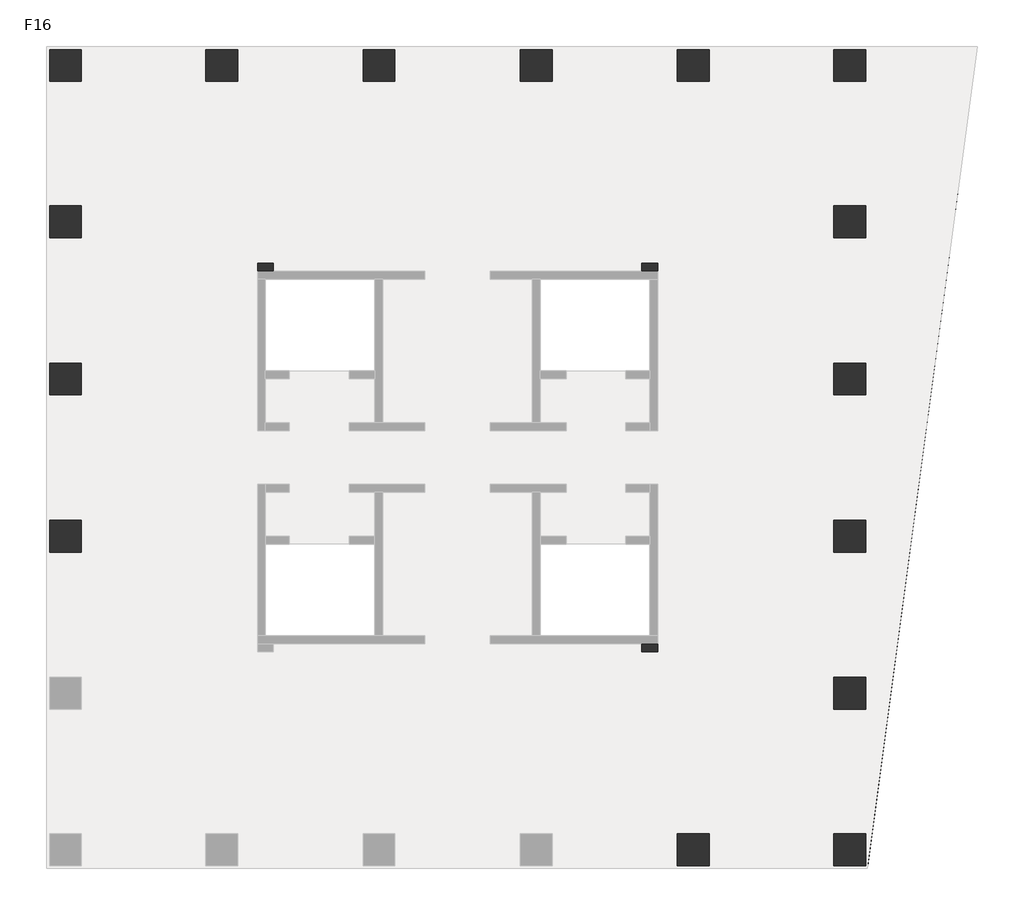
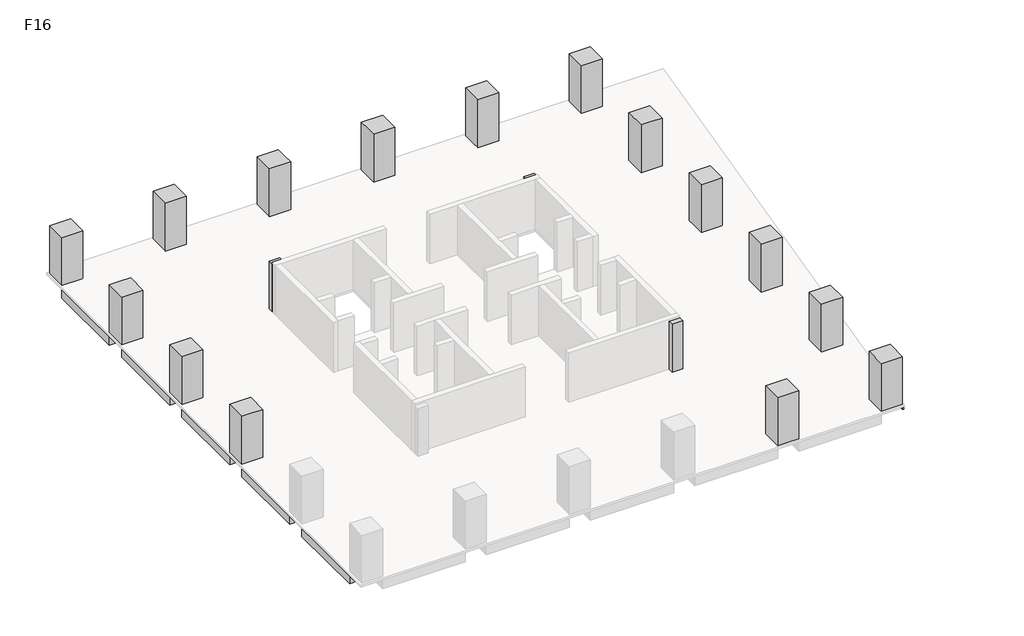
# One storey, part 2 of 2: 21 beams, 18 columns.
"""IFC4 building model written with IfcOpenShell, lengths in millimetres."""

from ifc_helpers import new_model, si_unit, frame, origin, place, context, project, spatial, polyline, outline, extrude, faceted_brep, element, save

model = new_model("IFC4")

# Units and contexts
model_context = context("Model", 3, world=origin())
ifc_project = project(units=[si_unit("LENGTHUNIT", "METRE", prefix="MILLI")], contexts=[model_context])

# Site, building, storey
site = spatial("IfcSite", under=ifc_project)
building = spatial("IfcBuilding", under=site)
storey = spatial("IfcBuildingStorey", under=building, Name="F16", Elevation=64000.0)

# Beams
placement = place(None, origin())
element("IfcBeam", 1, ObjectType="混凝土 - 矩形梁 : KL(5)-800x1000", at=placement, inside=storey, context=model_context, shape_type="SweptSolid", body=[
    extrude(outline(polyline([(25327.3257831, 27051.0498658), (25327.3257831, 26251.0498658), (19077.3257831, 26251.0498658), (19077.3257831, 27051.0498658), (25327.3257831, 27051.0498658)])), frame((0.0, 0.0, 63000.0), z_axis=(0.0, 0.0, 1.0), x_axis=(1.0, 0.0, 0.0)), (0.0, 0.0, 1.0), 840.0),
    extrude(outline(polyline([(-12472.6742169, 26251.0498658), (-12472.6742169, 27051.0498658), (-6222.6742169, 27051.0498658), (-6222.6742169, 26251.0498658), (-12472.6742169, 26251.0498658)])), frame((0.0, 0.0, 63000.0), z_axis=(0.0, 0.0, 1.0), x_axis=(1.0, 0.0, 0.0)), (0.0, 0.0, 1.0), 840.0),
    extrude(outline(polyline([(-4622.6742169, 26251.0498658), (-4622.6742169, 27051.0498658), (1677.3257831, 27051.0498658), (1677.3257831, 26251.0498658), (-4622.6742169, 26251.0498658)])), frame((0.0, 0.0, 63000.0), z_axis=(0.0, 0.0, 1.0), x_axis=(1.0, 0.0, 0.0)), (0.0, 0.0, 1.0), 840.0),
    extrude(outline(polyline([(3277.3257831, 26251.0498658), (3277.3257831, 27051.0498658), (9577.3257831, 27051.0498658), (9577.3257831, 26251.0498658), (3277.3257831, 26251.0498658)])), frame((0.0, 0.0, 63000.0), z_axis=(0.0, 0.0, 1.0), x_axis=(1.0, 0.0, 0.0)), (0.0, 0.0, 1.0), 840.0),
    extrude(outline(polyline([(11177.3257831, 26251.0498658), (11177.3257831, 27051.0498658), (17477.3257831, 27051.0498658), (17477.3257831, 26251.0498658), (11177.3257831, 26251.0498658)])), frame((0.0, 0.0, 63000.0), z_axis=(0.0, 0.0, 1.0), x_axis=(1.0, 0.0, 0.0)), (0.0, 0.0, 1.0), 840.0),
])
element("IfcBeam", 2, ObjectType="混凝土 - 矩形梁 : KL(5)-800x1000", at=placement, inside=storey, context=model_context, shape_type="Brep", body=[
    faceted_brep([(26927.3257831, 26251.0498658, 63000.0), (32422.0087099, 26251.0498658, 63000.0), (32422.0087099, 26251.0498658, 63840.0), (32018.4257091, 26251.0498658, 63840.0), (26927.3257831, 26251.0498658, 63840.0), (32422.0087099, 27051.0498658, 63000.0), (26927.3257831, 27051.0498658, 63000.0), (26927.3257831, 27051.0498658, 63840.0), (32422.0087099, 27051.0498658, 63840.0)], [[[0, 1, 2, 3, 4]], [[5, 1, 0, 6]], [[5, 6, 7, 8]], [[1, 5, 8, 2]], [[6, 0, 4, 7]], [[4, 3, 2, 8, 7]]]),
])
element("IfcBeam", 3, ObjectType="混凝土 - 矩形梁 : KL(5)-800x1000", at=placement, inside=storey, context=model_context, shape_type="Brep", body=[
    faceted_brep([(26127.3257831, -6098.9501342, 63000.0), (26127.3257831, -12348.9501342, 63000.0), (26127.3257831, -12348.9501342, 63840.0), (26127.3257831, -6098.9501342, 63840.0), (26927.3257831, -12348.9501342, 63000.0), (26927.3257831, -6098.9501342, 63000.0), (26927.3257831, -6098.9501342, 63840.0), (26927.3257831, -11700.7859463, 63840.0), (26927.3257831, -12348.9501342, 63840.0)], [[[0, 1, 2, 3]], [[4, 1, 0, 5]], [[4, 5, 6, 7, 8]], [[1, 4, 8, 2]], [[5, 0, 3, 6]], [[3, 2, 8, 7, 6]]]),
    faceted_brep([(26927.3257831, 25451.0498658, 63000.0), (26127.3257831, 25451.0498658, 63000.0), (26127.3257831, 25451.0498658, 63840.0), (26927.3257831, 25451.0498658, 63840.0), (26127.3257831, 19201.0498658, 63000.0), (26927.3257831, 19201.0498658, 63000.0), (26927.3257831, 19201.0498658, 63840.0), (26127.3257831, 19201.0498658, 63840.0)], [[[0, 1, 2, 3]], [[4, 5, 6, 7]], [[1, 4, 7, 2]], [[1, 0, 5, 4]], [[5, 0, 3, 6]], [[3, 2, 7, 6]]]),
    faceted_brep([(26927.3257831, 17601.0498658, 63000.0), (26127.3257831, 17601.0498658, 63000.0), (26127.3257831, 17601.0498658, 63840.0), (26927.3257831, 17601.0498658, 63840.0), (26127.3257831, 11301.0498658, 63000.0), (26927.3257831, 11301.0498658, 63000.0), (26927.3257831, 11301.0498658, 63840.0), (26127.3257831, 11301.0498658, 63840.0)], [[[0, 1, 2, 3]], [[4, 5, 6, 7]], [[1, 4, 7, 2]], [[1, 0, 5, 4]], [[5, 0, 3, 6]], [[3, 2, 7, 6]]]),
    faceted_brep([(26927.3257831, 9701.0498658, 63000.0), (26127.3257831, 9701.0498658, 63000.0), (26127.3257831, 9701.0498658, 63840.0), (26927.3257831, 9701.0498658, 63840.0), (26127.3257831, 3401.0498658, 63000.0), (26927.3257831, 3401.0498658, 63000.0), (26927.3257831, 3401.0498658, 63840.0), (26127.3257831, 3401.0498658, 63840.0)], [[[0, 1, 2, 3]], [[4, 5, 6, 7]], [[1, 4, 7, 2]], [[1, 0, 5, 4]], [[5, 0, 3, 6]], [[3, 2, 7, 6]]]),
    faceted_brep([(26927.3257831, 1801.0498658, 63000.0), (26127.3257831, 1801.0498658, 63000.0), (26127.3257831, 1801.0498658, 63840.0), (26927.3257831, 1801.0498658, 63840.0), (26127.3257831, -4498.9501342, 63000.0), (26927.3257831, -4498.9501342, 63000.0), (26927.3257831, -4498.9501342, 63840.0), (26127.3257831, -4498.9501342, 63840.0)], [[[0, 1, 2, 3]], [[4, 5, 6, 7]], [[1, 4, 7, 2]], [[1, 0, 5, 4]], [[5, 0, 3, 6]], [[3, 2, 7, 6]]]),
])
element("IfcBeam", 4, ObjectType="混凝土 - 矩形梁 : KL(5)-800x1000", at=placement, inside=storey, context=model_context, shape_type="SweptSolid", body=[
    extrude(outline(polyline([(-14072.6742169, 25451.0498658), (-13272.6742169, 25451.0498658), (-13272.6742169, 19201.0498658), (-14072.6742169, 19201.0498658), (-14072.6742169, 25451.0498658)])), frame((0.0, 0.0, 63000.0), z_axis=(0.0, 0.0, 1.0), x_axis=(1.0, 0.0, 0.0)), (0.0, 0.0, 1.0), 840.0),
    extrude(outline(polyline([(-13272.6742169, -12348.9501342), (-14072.6742169, -12348.9501342), (-14072.6742169, -6098.9501342), (-13272.6742169, -6098.9501342), (-13272.6742169, -12348.9501342)])), frame((0.0, 0.0, 63000.0), z_axis=(0.0, 0.0, 1.0), x_axis=(1.0, 0.0, 0.0)), (0.0, 0.0, 1.0), 840.0),
    extrude(outline(polyline([(-14072.6742169, 17601.0498658), (-13272.6742169, 17601.0498658), (-13272.6742169, 11301.0498658), (-14072.6742169, 11301.0498658), (-14072.6742169, 17601.0498658)])), frame((0.0, 0.0, 63000.0), z_axis=(0.0, 0.0, 1.0), x_axis=(1.0, 0.0, 0.0)), (0.0, 0.0, 1.0), 840.0),
    extrude(outline(polyline([(-14072.6742169, 9701.0498658), (-13272.6742169, 9701.0498658), (-13272.6742169, 3401.0498658), (-14072.6742169, 3401.0498658), (-14072.6742169, 9701.0498658)])), frame((0.0, 0.0, 63000.0), z_axis=(0.0, 0.0, 1.0), x_axis=(1.0, 0.0, 0.0)), (0.0, 0.0, 1.0), 840.0),
    extrude(outline(polyline([(-14072.6742169, 1801.0498658), (-13272.6742169, 1801.0498658), (-13272.6742169, -4498.9501342), (-14072.6742169, -4498.9501342), (-14072.6742169, 1801.0498658)])), frame((0.0, 0.0, 63000.0), z_axis=(0.0, 0.0, 1.0), x_axis=(1.0, 0.0, 0.0)), (0.0, 0.0, 1.0), 840.0),
])
element("IfcBeam", 5, ObjectType="混凝土 - 矩形梁 : L1-800x500", at=placement, inside=storey, context=model_context, shape_type="SweptSolid", body=[
    extrude(outline(polyline([(-12472.6742169, 2201.0498658), (-12472.6742169, 3001.0498658), (-3622.6742169, 3001.0498658), (-3622.6742169, 2201.0498658), (-12472.6742169, 2201.0498658)])), frame((0.0, 0.0, 63500.0), z_axis=(0.0, 0.0, 1.0), x_axis=(1.0, 0.0, 0.0)), (0.0, 0.0, 1.0), 340.0),
])
element("IfcBeam", 6, ObjectType="混凝土 - 矩形梁 : L1-800x500", at=placement, inside=storey, context=model_context, shape_type="SweptSolid", body=[
    extrude(outline(polyline([(-12472.6742169, 10101.0498658), (-12472.6742169, 10901.0498658), (-3622.6742169, 10901.0498658), (-3622.6742169, 10101.0498658), (-12472.6742169, 10101.0498658)])), frame((0.0, 0.0, 63500.0), z_axis=(0.0, 0.0, 1.0), x_axis=(1.0, 0.0, 0.0)), (0.0, 0.0, 1.0), 340.0),
])
element("IfcBeam", 7, ObjectType="混凝土 - 矩形梁 : L1-800x500", at=placement, inside=storey, context=model_context, shape_type="Brep", body=[
    faceted_brep([(-12472.6742169, 17789.85471, 63500.0), (-3622.6742169, 15588.3621727, 63500.0), (-3622.6742169, 15588.3621727, 63840.0), (-12472.6742169, 17789.85471, 63840.0), (-3173.6696907, 16301.0498658, 63500.0), (-3622.6742169, 16301.0498658, 63500.0), (-3622.6742169, 15901.0498658, 63500.0), (-12472.6742169, 18614.2350714, 63500.0), (-3746.9473979, 16443.6562607, 63500.0), (-12472.6742169, 18614.2350714, 63840.0), (-3746.9473979, 16443.6562607, 63840.0), (-3173.6696907, 16301.0498658, 63840.0), (-3622.6742169, 16301.0498658, 63840.0)], [[[0, 1, 2, 3]], [[4, 5, 6, 1, 0, 7, 8]], [[4, 8, 7, 9, 10, 11]], [[6, 5, 12, 2, 1]], [[5, 4, 11, 12]], [[7, 0, 3, 9]], [[3, 2, 12, 11, 10, 9]]]),
])
element("IfcBeam", 8, ObjectType="混凝土 - 矩形梁 : L1-800x500", at=placement, inside=storey, context=model_context, shape_type="SweptSolid", body=[
    extrude(outline(polyline([(-3173.6696907, 16301.0498658), (-3746.9473979, 16443.6562607), (-5661.5624638, 25451.0498658), (-4843.6893517, 25451.0498658), (-2898.7618154, 16301.0498658), (-3173.6696907, 16301.0498658)])), frame((0.0, 0.0, 63500.0), z_axis=(0.0, 0.0, 1.0), x_axis=(1.0, 0.0, 0.0)), (0.0, 0.0, 1.0), 340.0),
])
element("IfcBeam", 9, ObjectType="混凝土 - 矩形梁 : L1-800x500", at=placement, inside=storey, context=model_context, shape_type="SweptSolid", body=[
    extrude(outline(polyline([(2077.3257831, 25451.0498658), (2877.3257831, 25451.0498658), (2877.3257831, 15901.0498658), (2077.3257831, 15901.0498658), (2077.3257831, 25451.0498658)])), frame((0.0, 0.0, 63500.0), z_axis=(0.0, 0.0, 1.0), x_axis=(1.0, 0.0, 0.0)), (0.0, 0.0, 1.0), 340.0),
])
element("IfcBeam", 10, ObjectType="混凝土 - 矩形梁 : L1-800x500", at=placement, inside=storey, context=model_context, shape_type="SweptSolid", body=[
    extrude(outline(polyline([(9977.3257831, 25451.0498658), (10777.3257831, 25451.0498658), (10777.3257831, 15901.0498658), (9977.3257831, 15901.0498658), (9977.3257831, 25451.0498658)])), frame((0.0, 0.0, 63500.0), z_axis=(0.0, 0.0, 1.0), x_axis=(1.0, 0.0, 0.0)), (0.0, 0.0, 1.0), 340.0),
])
element("IfcBeam", 11, ObjectType="混凝土 - 矩形梁 : L1-800x500", at=placement, inside=storey, context=model_context, shape_type="Brep", body=[
    faceted_brep([(25327.3257831, -4687.7549784, 63500.0), (16477.3257831, -2486.2624411, 63500.0), (16477.3257831, -2486.2624411, 63840.0), (25327.3257831, -4687.7549784, 63840.0), (16028.3212569, -3198.9501342, 63500.0), (16477.3257831, -3198.9501342, 63500.0), (16477.3257831, -2798.9501342, 63500.0), (25327.3257831, -5512.1353397, 63500.0), (16601.5989641, -3341.556529, 63500.0), (25327.3257831, -5512.1353397, 63840.0), (16601.5989641, -3341.556529, 63840.0), (16028.3212569, -3198.9501342, 63840.0), (16477.3257831, -3198.9501342, 63840.0)], [[[0, 1, 2, 3]], [[4, 5, 6, 1, 0, 7, 8]], [[4, 8, 7, 9, 10, 11]], [[6, 5, 12, 2, 1]], [[5, 4, 11, 12]], [[7, 0, 3, 9]], [[3, 2, 12, 11, 10, 9]]]),
])
element("IfcBeam", 12, ObjectType="混凝土 - 矩形梁 : L1-800x500", at=placement, inside=storey, context=model_context, shape_type="SweptSolid", body=[
    extrude(outline(polyline([(16028.3212569, -3198.9501342), (16601.5989641, -3341.556529), (18516.21403, -12348.9501342), (17698.3409179, -12348.9501342), (15753.4133817, -3198.9501342), (16028.3212569, -3198.9501342)])), frame((0.0, 0.0, 63500.0), z_axis=(0.0, 0.0, 1.0), x_axis=(1.0, 0.0, 0.0)), (0.0, 0.0, 1.0), 340.0),
])
element("IfcBeam", 13, ObjectType="混凝土 - 矩形梁 : L1-800x500", at=placement, inside=storey, context=model_context, shape_type="SweptSolid", body=[
    extrude(outline(polyline([(25327.3257831, 3001.0498658), (25327.3257831, 2201.0498658), (16477.3257831, 2201.0498658), (16477.3257831, 3001.0498658), (25327.3257831, 3001.0498658)])), frame((0.0, 0.0, 63500.0), z_axis=(0.0, 0.0, 1.0), x_axis=(1.0, 0.0, 0.0)), (0.0, 0.0, 1.0), 340.0),
])
element("IfcBeam", 14, ObjectType="混凝土 - 矩形梁 : L1-800x500", at=placement, inside=storey, context=model_context, shape_type="SweptSolid", body=[
    extrude(outline(polyline([(25327.3257831, 10901.0498658), (25327.3257831, 10101.0498658), (16477.3257831, 10101.0498658), (16477.3257831, 10901.0498658), (25327.3257831, 10901.0498658)])), frame((0.0, 0.0, 63500.0), z_axis=(0.0, 0.0, 1.0), x_axis=(1.0, 0.0, 0.0)), (0.0, 0.0, 1.0), 340.0),
])
element("IfcBeam", 15, ObjectType="混凝土 - 矩形梁 : L1-800x500", at=placement, inside=storey, context=model_context, shape_type="Brep", body=[
    faceted_brep([(25327.3257831, 18610.6867312, 63500.0), (16590.8993897, 16393.3196262, 63500.0), (16227.3565337, 16301.0498658, 63500.0), (16227.3565337, 16301.0498658, 63840.0), (16590.8993897, 16393.3196262, 63840.0), (25327.3257831, 18610.6867312, 63840.0), (16477.3257831, 16301.0498658, 63500.0), (25327.3257831, 17785.3216299, 63500.0), (16477.3257831, 15539.1287365, 63500.0), (16477.3257831, 15901.0498658, 63500.0), (25327.3257831, 17785.3216299, 63840.0), (16477.3257831, 15539.1287365, 63840.0), (16477.3257831, 16301.0498658, 63840.0)], [[[0, 1, 2, 3, 4, 5]], [[6, 2, 1, 0, 7, 8, 9]], [[8, 7, 10, 11]], [[9, 8, 11, 12, 6]], [[2, 6, 12, 3]], [[7, 0, 5, 10]], [[5, 4, 3, 12, 11, 10]]]),
])
element("IfcBeam", 16, ObjectType="混凝土 - 矩形梁 : L1-800x500", at=placement, inside=storey, context=model_context, shape_type="SweptSolid", body=[
    extrude(outline(polyline([(16590.8993897, 16393.3196262), (16227.3565337, 16301.0498658), (15753.4133817, 16301.0498658), (17698.3409179, 25451.0498658), (18516.21403, 25451.0498658), (16590.8993897, 16393.3196262)])), frame((0.0, 0.0, 63500.0), z_axis=(0.0, 0.0, 1.0), x_axis=(1.0, 0.0, 0.0)), (0.0, 0.0, 1.0), 340.0),
])
element("IfcBeam", 17, ObjectType="混凝土 - 矩形梁 : L2-400x400", at=placement, inside=storey, context=model_context, shape_type="Brep", body=[
    faceted_brep([(32422.0087099, 26251.0498658, 63600.0), (27029.3257831, -13948.9501342, 63600.0), (26927.3257831, -13935.2672073, 63600.0), (26927.3257831, -11700.7859463, 63600.0), (27759.2793677, -5498.9501342, 63600.0), (27812.9379042, -5098.9501342, 63600.0), (28819.0354652, 2401.0498658, 63600.0), (28872.6940018, 2801.0498658, 63600.0), (29878.7915628, 10301.0498658, 63600.0), (29932.4500994, 10701.0498658, 63600.0), (30938.5476603, 18201.0498658, 63600.0), (30992.2061969, 18601.0498658, 63600.0), (32018.4257091, 26251.0498658, 63600.0), (32422.0087099, 26251.0498658, 63840.0), (27029.3257831, -13948.9501342, 63840.0), (32018.4257091, 26251.0498658, 63840.0), (26927.3257831, -13935.2672073, 63840.0), (26927.3257831, -12348.9501342, 63840.0), (26927.3257831, -11700.7859463, 63840.0), (27759.2793677, -5498.9501342, 63840.0), (27812.9379042, -5098.9501342, 63840.0), (28819.0354652, 2401.0498658, 63840.0), (28872.6940018, 2801.0498658, 63840.0), (29878.7915628, 10301.0498658, 63840.0), (29932.4500994, 10701.0498658, 63840.0), (30938.5476603, 18201.0498658, 63840.0), (30992.2061969, 18601.0498658, 63840.0)], [[[0, 1, 2, 3, 4, 5, 6, 7, 8, 9, 10, 11, 12]], [[1, 0, 13, 14]], [[0, 12, 15, 13]], [[3, 2, 16, 17, 18]], [[12, 11, 10, 9, 8, 7, 6, 5, 4, 3, 18, 19, 20, 21, 22, 23, 24, 25, 26, 15]], [[2, 1, 14, 16]], [[14, 13, 15, 26, 25, 24, 23, 22, 21, 20, 19, 18, 17, 16]]]),
])
element("IfcBeam", 18, ObjectType="混凝土 - 矩形梁 : L2-400x400", at=placement, inside=storey, context=model_context, shape_type="SweptSolid", body=[
    extrude(outline(polyline([(30938.5476603, 18201.0498658), (26927.3257831, 18201.0498658), (26927.3257831, 18601.0498658), (30992.2061969, 18601.0498658), (30938.5476603, 18201.0498658)])), frame((0.0, 0.0, 63600.0), z_axis=(0.0, 0.0, 1.0), x_axis=(1.0, 0.0, 0.0)), (0.0, 0.0, 1.0), 240.0),
])
element("IfcBeam", 19, ObjectType="混凝土 - 矩形梁 : L2-400x400", at=placement, inside=storey, context=model_context, shape_type="SweptSolid", body=[
    extrude(outline(polyline([(29878.7915628, 10301.0498658), (26927.3257831, 10301.0498658), (26927.3257831, 10701.0498658), (29932.4500994, 10701.0498658), (29878.7915628, 10301.0498658)])), frame((0.0, 0.0, 63600.0), z_axis=(0.0, 0.0, 1.0), x_axis=(1.0, 0.0, 0.0)), (0.0, 0.0, 1.0), 240.0),
])
element("IfcBeam", 20, ObjectType="混凝土 - 矩形梁 : L2-400x400", at=placement, inside=storey, context=model_context, shape_type="SweptSolid", body=[
    extrude(outline(polyline([(28819.0354652, 2401.0498658), (26927.3257831, 2401.0498658), (26927.3257831, 2801.0498658), (28872.6940018, 2801.0498658), (28819.0354652, 2401.0498658)])), frame((0.0, 0.0, 63600.0), z_axis=(0.0, 0.0, 1.0), x_axis=(1.0, 0.0, 0.0)), (0.0, 0.0, 1.0), 240.0),
])
element("IfcBeam", 21, ObjectType="混凝土 - 矩形梁 : L2-400x400", at=placement, inside=storey, context=model_context, shape_type="SweptSolid", body=[
    extrude(outline(polyline([(27759.2793677, -5498.9501342), (26927.3257831, -5498.9501342), (26927.3257831, -5098.9501342), (27812.9379042, -5098.9501342), (27759.2793677, -5498.9501342)])), frame((0.0, 0.0, 63600.0), z_axis=(0.0, 0.0, 1.0), x_axis=(1.0, 0.0, 0.0)), (0.0, 0.0, 1.0), 240.0),
])

# Columns
element("IfcColumn", 22, ObjectType="混凝土 - 矩形 - 柱 : Z1-1600x1600", at=placement, inside=storey, context=model_context, shape_type="SweptSolid", body=[
    extrude(outline(polyline([(-12472.6742169, 27051.0498658), (-12472.6742169, 25451.0498658), (-14072.6742169, 25451.0498658), (-14072.6742169, 27051.0498658), (-12472.6742169, 27051.0498658)])), frame((0.0, 0.0, 64000.0), z_axis=(0.0, 0.0, 1.0), x_axis=(1.0, 0.0, 0.0)), (0.0, 0.0, 1.0), 3840.0),
])
element("IfcColumn", 23, ObjectType="混凝土 - 矩形 - 柱 : Z1-1600x1600", at=placement, inside=storey, context=model_context, shape_type="Brep", body=[
    faceted_brep([(-4622.6742169, 27051.0498658, 64000.0), (-4622.6742169, 25451.0498658, 64000.0), (-6222.6742169, 25451.0498658, 64000.0), (-6222.6742169, 27051.0498658, 64000.0), (-4622.6742169, 27051.0498658, 67000.0), (-4622.6742169, 27051.0498658, 67840.0), (-4622.6742169, 26251.0498658, 67840.0), (-4622.6742169, 25451.0498658, 67840.0), (-6222.6742169, 25451.0498658, 67840.0), (-6222.6742169, 26251.0498658, 67840.0), (-6222.6742169, 27051.0498658, 67840.0), (-6222.6742169, 27051.0498658, 67000.0)], [[[0, 1, 2, 3]], [[1, 0, 4, 5, 6, 7]], [[2, 1, 7, 8]], [[3, 2, 8, 9, 10, 11]], [[0, 3, 11, 10, 5, 4]], [[7, 6, 5, 10, 9, 8]]]),
])
element("IfcColumn", 24, ObjectType="混凝土 - 矩形 - 柱 : Z1-1600x1600", at=placement, inside=storey, context=model_context, shape_type="Brep", body=[
    faceted_brep([(-12472.6742169, 19201.0498658, 64000.0), (-12472.6742169, 17601.0498658, 64000.0), (-14072.6742169, 17601.0498658, 64000.0), (-14072.6742169, 19201.0498658, 64000.0), (-12472.6742169, 19201.0498658, 67840.0), (-12472.6742169, 17601.0498658, 67840.0), (-13272.6742169, 17601.0498658, 67840.0), (-14072.6742169, 17601.0498658, 67840.0), (-14072.6742169, 17601.0498658, 67000.0), (-14072.6742169, 19201.0498658, 67840.0), (-14072.6742169, 19201.0498658, 67000.0), (-13272.6742169, 19201.0498658, 67840.0)], [[[0, 1, 2, 3]], [[1, 0, 4, 5]], [[2, 1, 5, 6, 7, 8]], [[3, 2, 8, 7, 9, 10]], [[0, 3, 10, 9, 11, 4]], [[5, 4, 11, 9, 7, 6]]]),
])
element("IfcColumn", 25, ObjectType="混凝土 - 矩形 - 柱 : Z1-1600x1600", at=placement, inside=storey, context=model_context, shape_type="Brep", body=[
    faceted_brep([(-12472.6742169, 11301.0498658, 64000.0), (-12472.6742169, 9701.0498658, 64000.0), (-14072.6742169, 9701.0498658, 64000.0), (-14072.6742169, 11301.0498658, 64000.0), (-12472.6742169, 11301.0498658, 67840.0), (-12472.6742169, 9701.0498658, 67840.0), (-13272.6742169, 9701.0498658, 67840.0), (-14072.6742169, 9701.0498658, 67840.0), (-14072.6742169, 9701.0498658, 67000.0), (-14072.6742169, 11301.0498658, 67840.0), (-14072.6742169, 11301.0498658, 67000.0), (-13272.6742169, 11301.0498658, 67840.0)], [[[0, 1, 2, 3]], [[1, 0, 4, 5]], [[2, 1, 5, 6, 7, 8]], [[3, 2, 8, 7, 9, 10]], [[0, 3, 10, 9, 11, 4]], [[5, 4, 11, 9, 7, 6]]]),
])
element("IfcColumn", 26, ObjectType="混凝土 - 矩形 - 柱 : Z1-1600x1600", at=placement, inside=storey, context=model_context, shape_type="Brep", body=[
    faceted_brep([(-12472.6742169, 3401.0498658, 64000.0), (-12472.6742169, 1801.0498658, 64000.0), (-14072.6742169, 1801.0498658, 64000.0), (-14072.6742169, 3401.0498658, 64000.0), (-12472.6742169, 3401.0498658, 67840.0), (-12472.6742169, 1801.0498658, 67840.0), (-13272.6742169, 1801.0498658, 67840.0), (-14072.6742169, 1801.0498658, 67840.0), (-14072.6742169, 1801.0498658, 67000.0), (-14072.6742169, 3401.0498658, 67840.0), (-14072.6742169, 3401.0498658, 67000.0), (-13272.6742169, 3401.0498658, 67840.0)], [[[0, 1, 2, 3]], [[1, 0, 4, 5]], [[2, 1, 5, 6, 7, 8]], [[3, 2, 8, 7, 9, 10]], [[0, 3, 10, 9, 11, 4]], [[5, 4, 11, 9, 7, 6]]]),
])
element("IfcColumn", 27, ObjectType="混凝土 - 矩形 - 柱 : Z1-1600x1600", at=placement, inside=storey, context=model_context, shape_type="SweptSolid", body=[
    extrude(outline(polyline([(25327.3257831, 27051.0498658), (26927.3257831, 27051.0498658), (26927.3257831, 25451.0498658), (25327.3257831, 25451.0498658), (25327.3257831, 27051.0498658)])), frame((0.0, 0.0, 64000.0), z_axis=(0.0, 0.0, 1.0), x_axis=(1.0, 0.0, 0.0)), (0.0, 0.0, 1.0), 3840.0),
])
element("IfcColumn", 28, ObjectType="混凝土 - 矩形 - 柱 : Z1-1600x1600", at=placement, inside=storey, context=model_context, shape_type="Brep", body=[
    faceted_brep([(25327.3257831, 19201.0498658, 64000.0), (26927.3257831, 19201.0498658, 64000.0), (26927.3257831, 17601.0498658, 64000.0), (25327.3257831, 17601.0498658, 64000.0), (25327.3257831, 17601.0498658, 67840.0), (25327.3257831, 19201.0498658, 67840.0), (26927.3257831, 17601.0498658, 67000.0), (26927.3257831, 17601.0498658, 67840.0), (26127.3257831, 17601.0498658, 67840.0), (26927.3257831, 19201.0498658, 67000.0), (26927.3257831, 19201.0498658, 67840.0), (26127.3257831, 19201.0498658, 67840.0)], [[[0, 1, 2, 3]], [[0, 3, 4, 5]], [[3, 2, 6, 7, 8, 4]], [[2, 1, 9, 10, 7, 6]], [[1, 0, 5, 11, 10, 9]], [[5, 4, 8, 7, 10, 11]]]),
])
element("IfcColumn", 29, ObjectType="混凝土 - 矩形 - 柱 : Z1-1600x1600", at=placement, inside=storey, context=model_context, shape_type="Brep", body=[
    faceted_brep([(25327.3257831, 11301.0498658, 64000.0), (26927.3257831, 11301.0498658, 64000.0), (26927.3257831, 9701.0498658, 64000.0), (25327.3257831, 9701.0498658, 64000.0), (25327.3257831, 9701.0498658, 67840.0), (25327.3257831, 11301.0498658, 67840.0), (26927.3257831, 9701.0498658, 67000.0), (26927.3257831, 9701.0498658, 67840.0), (26127.3257831, 9701.0498658, 67840.0), (26927.3257831, 11301.0498658, 67000.0), (26927.3257831, 11301.0498658, 67840.0), (26127.3257831, 11301.0498658, 67840.0)], [[[0, 1, 2, 3]], [[0, 3, 4, 5]], [[3, 2, 6, 7, 8, 4]], [[2, 1, 9, 10, 7, 6]], [[1, 0, 5, 11, 10, 9]], [[5, 4, 8, 7, 10, 11]]]),
])
element("IfcColumn", 30, ObjectType="混凝土 - 矩形 - 柱 : Z1-1600x1600", at=placement, inside=storey, context=model_context, shape_type="Brep", body=[
    faceted_brep([(25327.3257831, 3401.0498658, 64000.0), (26927.3257831, 3401.0498658, 64000.0), (26927.3257831, 1801.0498658, 64000.0), (25327.3257831, 1801.0498658, 64000.0), (25327.3257831, 1801.0498658, 67840.0), (25327.3257831, 3401.0498658, 67840.0), (26927.3257831, 1801.0498658, 67000.0), (26927.3257831, 1801.0498658, 67840.0), (26127.3257831, 1801.0498658, 67840.0), (26927.3257831, 3401.0498658, 67000.0), (26927.3257831, 3401.0498658, 67840.0), (26127.3257831, 3401.0498658, 67840.0)], [[[0, 1, 2, 3]], [[0, 3, 4, 5]], [[3, 2, 6, 7, 8, 4]], [[2, 1, 9, 10, 7, 6]], [[1, 0, 5, 11, 10, 9]], [[5, 4, 8, 7, 10, 11]]]),
])
element("IfcColumn", 31, ObjectType="混凝土 - 矩形 - 柱 : Z1-1600x1600", at=placement, inside=storey, context=model_context, shape_type="Brep", body=[
    faceted_brep([(25327.3257831, -4498.9501342, 64000.0), (26927.3257831, -4498.9501342, 64000.0), (26927.3257831, -6098.9501342, 64000.0), (25327.3257831, -6098.9501342, 64000.0), (25327.3257831, -6098.9501342, 67840.0), (25327.3257831, -4498.9501342, 67840.0), (26927.3257831, -6098.9501342, 67000.0), (26927.3257831, -6098.9501342, 67840.0), (26127.3257831, -6098.9501342, 67840.0), (26927.3257831, -4498.9501342, 67000.0), (26927.3257831, -4498.9501342, 67840.0), (26127.3257831, -4498.9501342, 67840.0)], [[[0, 1, 2, 3]], [[0, 3, 4, 5]], [[3, 2, 6, 7, 8, 4]], [[2, 1, 9, 10, 7, 6]], [[1, 0, 5, 11, 10, 9]], [[5, 4, 8, 7, 10, 11]]]),
])
element("IfcColumn", 32, ObjectType="混凝土 - 矩形 - 柱 : Z1-1600x1600", at=placement, inside=storey, context=model_context, shape_type="SweptSolid", body=[
    extrude(outline(polyline([(25327.3257831, -12348.9501342), (26927.3257831, -12348.9501342), (26927.3257831, -13948.9501342), (25327.3257831, -13948.9501342), (25327.3257831, -12348.9501342)])), frame((0.0, 0.0, 64000.0), z_axis=(0.0, 0.0, 1.0), x_axis=(1.0, 0.0, 0.0)), (0.0, 0.0, 1.0), 3840.0),
])
element("IfcColumn", 33, ObjectType="混凝土 - 矩形 - 柱 : Z1-1600x1600", at=placement, inside=storey, context=model_context, shape_type="Brep", body=[
    faceted_brep([(3277.3257831, 27051.0498658, 64000.0), (3277.3257831, 25451.0498658, 64000.0), (1677.3257831, 25451.0498658, 64000.0), (1677.3257831, 27051.0498658, 64000.0), (3277.3257831, 27051.0498658, 67000.0), (3277.3257831, 27051.0498658, 67840.0), (3277.3257831, 26251.0498658, 67840.0), (3277.3257831, 25451.0498658, 67840.0), (1677.3257831, 25451.0498658, 67840.0), (1677.3257831, 26251.0498658, 67840.0), (1677.3257831, 27051.0498658, 67840.0), (1677.3257831, 27051.0498658, 67000.0)], [[[0, 1, 2, 3]], [[1, 0, 4, 5, 6, 7]], [[2, 1, 7, 8]], [[3, 2, 8, 9, 10, 11]], [[0, 3, 11, 10, 5, 4]], [[7, 6, 5, 10, 9, 8]]]),
])
element("IfcColumn", 34, ObjectType="混凝土 - 矩形 - 柱 : Z1-1600x1600", at=placement, inside=storey, context=model_context, shape_type="Brep", body=[
    faceted_brep([(11177.3257831, 27051.0498658, 64000.0), (11177.3257831, 25451.0498658, 64000.0), (9577.3257831, 25451.0498658, 64000.0), (9577.3257831, 27051.0498658, 64000.0), (11177.3257831, 27051.0498658, 67000.0), (11177.3257831, 27051.0498658, 67840.0), (11177.3257831, 26251.0498658, 67840.0), (11177.3257831, 25451.0498658, 67840.0), (9577.3257831, 25451.0498658, 67840.0), (9577.3257831, 26251.0498658, 67840.0), (9577.3257831, 27051.0498658, 67840.0), (9577.3257831, 27051.0498658, 67000.0)], [[[0, 1, 2, 3]], [[1, 0, 4, 5, 6, 7]], [[2, 1, 7, 8]], [[3, 2, 8, 9, 10, 11]], [[0, 3, 11, 10, 5, 4]], [[7, 6, 5, 10, 9, 8]]]),
])
element("IfcColumn", 35, ObjectType="混凝土 - 矩形 - 柱 : Z1-1600x1600", at=placement, inside=storey, context=model_context, shape_type="Brep", body=[
    faceted_brep([(19077.3257831, 27051.0498658, 64000.0), (19077.3257831, 25451.0498658, 64000.0), (17477.3257831, 25451.0498658, 64000.0), (17477.3257831, 27051.0498658, 64000.0), (19077.3257831, 27051.0498658, 67000.0), (19077.3257831, 27051.0498658, 67840.0), (19077.3257831, 26251.0498658, 67840.0), (19077.3257831, 25451.0498658, 67840.0), (17477.3257831, 25451.0498658, 67840.0), (17477.3257831, 26251.0498658, 67840.0), (17477.3257831, 27051.0498658, 67840.0), (17477.3257831, 27051.0498658, 67000.0)], [[[0, 1, 2, 3]], [[1, 0, 4, 5, 6, 7]], [[2, 1, 7, 8]], [[3, 2, 8, 9, 10, 11]], [[0, 3, 11, 10, 5, 4]], [[7, 6, 5, 10, 9, 8]]]),
])
element("IfcColumn", 36, ObjectType="混凝土 - 矩形 - 柱 : Z1-1600x1600", at=placement, inside=storey, context=model_context, shape_type="Brep", body=[
    faceted_brep([(19077.3257831, -12348.9501342, 64000.0), (19077.3257831, -13948.9501342, 64000.0), (17477.3257831, -13948.9501342, 64000.0), (17477.3257831, -12348.9501342, 64000.0), (19077.3257831, -12348.9501342, 67840.0), (19077.3257831, -13148.9501342, 67840.0), (19077.3257831, -13948.9501342, 67840.0), (19077.3257831, -13948.9501342, 67000.0), (17477.3257831, -13948.9501342, 67840.0), (17477.3257831, -13948.9501342, 67000.0), (17477.3257831, -13148.9501342, 67840.0), (17477.3257831, -12348.9501342, 67840.0)], [[[0, 1, 2, 3]], [[1, 0, 4, 5, 6, 7]], [[2, 1, 7, 6, 8, 9]], [[3, 2, 9, 8, 10, 11]], [[0, 3, 11, 4]], [[6, 5, 4, 11, 10, 8]]]),
])
element("IfcColumn", 37, ObjectType="混凝土 - 矩形 - 柱 : Z2-800x800", at=placement, inside=storey, context=model_context, shape_type="SweptSolid", body=[
    extrude(outline(polyline([(-3622.6742169, 16301.0498658), (-2822.6742169, 16301.0498658), (-2822.6742169, 15901.0498658), (-3622.6742169, 15901.0498658), (-3622.6742169, 16301.0498658)])), frame((0.0, 0.0, 64000.0), z_axis=(0.0, 0.0, 1.0), x_axis=(1.0, 0.0, 0.0)), (0.0, 0.0, 1.0), 3840.0),
])
element("IfcColumn", 38, ObjectType="混凝土 - 矩形 - 柱 : Z2-800x800", at=placement, inside=storey, context=model_context, shape_type="SweptSolid", body=[
    extrude(outline(polyline([(16477.3257831, -3198.9501342), (15677.3257831, -3198.9501342), (15677.3257831, -2798.9501342), (16477.3257831, -2798.9501342), (16477.3257831, -3198.9501342)])), frame((0.0, 0.0, 64000.0), z_axis=(0.0, 0.0, 1.0), x_axis=(1.0, 0.0, 0.0)), (0.0, 0.0, 1.0), 3840.0),
])
element("IfcColumn", 39, ObjectType="混凝土 - 矩形 - 柱 : Z2-800x800", at=placement, inside=storey, context=model_context, shape_type="SweptSolid", body=[
    extrude(outline(polyline([(15677.3257831, 16301.0498658), (16477.3257831, 16301.0498658), (16477.3257831, 15901.0498658), (15677.3257831, 15901.0498658), (15677.3257831, 16301.0498658)])), frame((0.0, 0.0, 64000.0), z_axis=(0.0, 0.0, 1.0), x_axis=(1.0, 0.0, 0.0)), (0.0, 0.0, 1.0), 3840.0),
])

save(model, "model.ifc")
